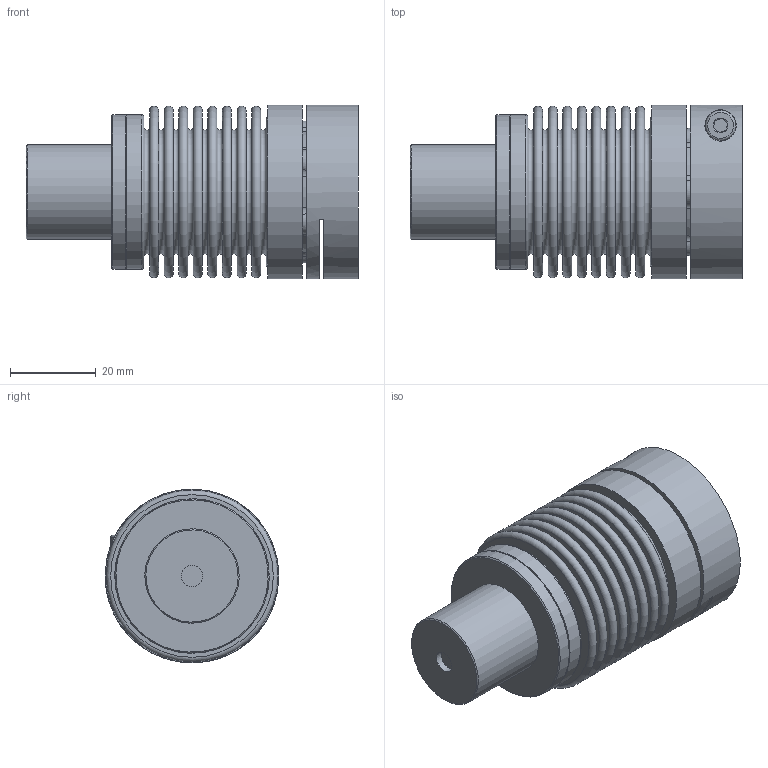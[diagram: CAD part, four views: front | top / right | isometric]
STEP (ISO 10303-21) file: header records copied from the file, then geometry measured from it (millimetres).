
FILE_DESCRIPTION( ( 'KBE1/14 - N7H8 - N14H7 - 98 Sh' ), '1' );
FILE_NAME( 'K:/Konstruktion/Fertigungszeichnungen/Metallbalgkupplung/KB3P/100/KB3P-100-60.stp', '14.12.2015', ( 'KBK-Antriebstechnik' ), ( 'KBK-Antriebstechnik' ), 'PSStep 16.0.42', 'Solid Edge St6', ' ' );
FILE_SCHEMA( ( 'AUTOMOTIVE_DESIGN { 1 0 10303 214 1 1 1 1 }' ) );
Length unit declared in the file: millimetre
Products named in the file (7): Assem1; Stecknabe KB2P-100; Balgaufnahme KB2P-100 für Step; SN100; ISO EN DIN 4762 M4x12; ISO EN DIN 4762 M6x25; BL100_Standard_1
Assembly tree (6 placements, depth 2):
  Assem1
    Stecknabe KB2P-100
    Balgaufnahme KB2P-100 für Step
    SN100
    ISO EN DIN 4762 M4x12
    ISO EN DIN 4762 M6x25
    BL100_Standard_1
Bounding box: 77.4 x 40.5 x 40.5 mm (x, y, z)
Volume: 44678.5 mm3; surface area: 41350.5 mm2
Topology: 6 solids, 6 shells, 210 faces, 422 edges, 271 vertices
Faces by surface type: plane 78, cone 66, torus 42, cylinder 24
Full cylindrical faces by diameter (mm): 3.242 x1, 3.5 x1, 4 x2, 4.2 x1, 5 x2, 6 x3, 7 x1, 7.3 x1, 10 x1, 22 x1, 34.343 x1, 35.143 x1, 35.2 x2, 36 x2, 40.5 x2
Entity records: 7165 total; most frequent: CARTESIAN_POINT 1039, DIRECTION 1003, ORIENTED_EDGE 686, AXIS2_PLACEMENT_3D 458, EDGE_CURVE 343, EDGE_LOOP 339, VERTEX_POINT 278, FACE_OUTER_BOUND 274
